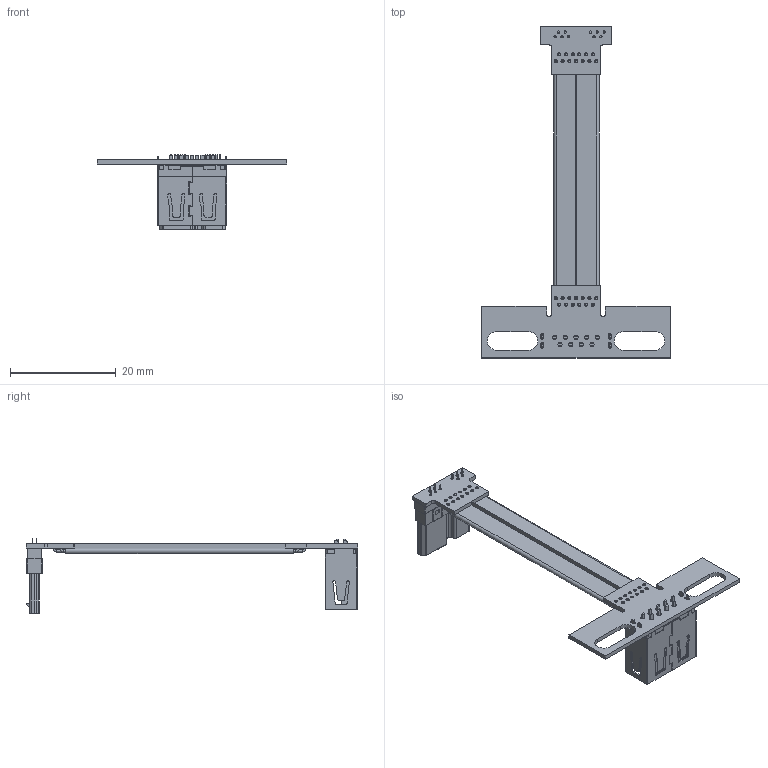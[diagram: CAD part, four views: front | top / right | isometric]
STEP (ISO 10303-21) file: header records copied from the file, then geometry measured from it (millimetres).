
FILE_DESCRIPTION(('Open CASCADE Model'),'2;1');
FILE_NAME('Open CASCADE Shape Model','2022-04-17T15:24:47',('Author'),( 'Open CASCADE'),'Open CASCADE STEP processor 6.8','Open CASCADE 6.8' ,'Unknown');
FILE_SCHEMA(('AUTOMOTIVE_DESIGN { 1 0 10303 214 1 1 1 1 }'));
Length unit declared in the file: millimetre
Products named in the file (53): PCB; Board; Open CASCADE STEP translator 6.8 19.1.1; Designator22; micro_usb_3.0; _1; USB_20211129_(1); Free-Models; cable13-US2A
Assembly tree (52 placements, depth 3):
  PCB
    Board
      Open CASCADE STEP translator 6.8 19.1.1
    Designator22
      micro_usb_3.0
    _1
      USB_20211129_(1)
      USB_20211129_(1)
      USB_20211129_(1)
      USB_20211129_(1)
      USB_20211129_(1)
      USB_20211129_(1)
      USB_20211129_(1)
      USB_20211129_(1)
      USB_20211129_(1)
      USB_20211129_(1)
      USB_20211129_(1)
      USB_20211129_(1)
      USB_20211129_(1)
      USB_20211129_(1)
      USB_20211129_(1)
      USB_20211129_(1)
      USB_20211129_(1)
      USB_20211129_(1)
      USB_20211129_(1)
    Free-Models
      cable13-US2A
      cable13-US2A
      cable13-US2A
      cable13-US2A
      cable13-US2A
      cable13-US2A
      cable13-US2A
      cable13-US2A
      cable13-US2A
      cable13-US2A
      cable13-US2A
      cable13-US2A
      cable13-US2A
      cable13-US2A
      cable13-US2A
      cable13-US2A
      cable13-US2A
      cable13-US2A
      cable13-US2A
      cable13-US2A
      cable13-US2A
      cable13-US2A
      cable13-US2A
      cable13-US2A
      cable13-US2A
      cable13-US2A
      cable13-US2A
Bounding box: 35.78 x 62.78 x 14.07 mm (x, y, z)
Volume: 1350.6 mm3; surface area: 4394.4 mm2
Topology: 48 solids, 48 shells, 1001 faces, 2582 edges, 1698 vertices
Faces by surface type: plane 611, cylinder 364, torus 26
Full cylindrical faces by diameter (mm): 0.4 x65, 0.45 x10, 0.6 x26, 0.8 x9
Entity records: 39700 total; most frequent: CARTESIAN_POINT 5555, DIRECTION 5330, ORIENTED_EDGE 5164, EDGE_CURVE 2582, AXIS2_PLACEMENT_3D 1785, LINE 1760, VECTOR 1760, VERTEX_POINT 1698
